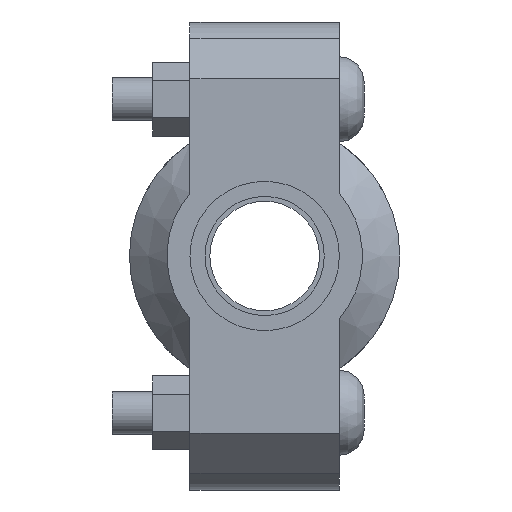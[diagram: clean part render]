
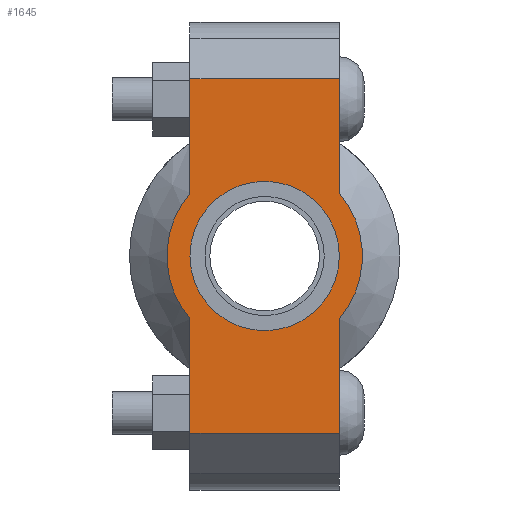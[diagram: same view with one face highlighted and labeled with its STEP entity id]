
A CAD part, left-side view. The second image highlights one B-rep face of the part: STEP entity #1645.
In plain terms, the highlighted planar face has unit normal (-1, 0, 0) as drawn and (0, 0, 1) by its records, which use the part's own axes.
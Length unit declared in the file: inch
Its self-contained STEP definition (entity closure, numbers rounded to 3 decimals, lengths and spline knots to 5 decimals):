
#200=LINE('',#2845,#297);
#215=LINE('',#2904,#312);
#223=LINE('',#2934,#320);
#225=LINE('',#2937,#322);
#226=LINE('',#2942,#323);
#227=LINE('',#2943,#324);
#297=VECTOR('',#2309,0.3937);
#312=VECTOR('',#2344,0.3937);
#320=VECTOR('',#2364,0.3937);
#322=VECTOR('',#2368,0.3937);
#323=VECTOR('',#2373,0.3937);
#324=VECTOR('',#2374,0.3937);
#388=FACE_BOUND('',#565,.T.);
#456=FACE_OUTER_BOUND('',#564,.T.);
#564=EDGE_LOOP('',(#1346,#1347,#1348,#1349,#1350,#1351,#1352,#1353));
#565=EDGE_LOOP('',(#1354));
#647=CIRCLE('',#1873,0.6575);
#671=CIRCLE('',#1925,0.86);
#672=CIRCLE('',#1926,0.86);
#743=VERTEX_POINT('',#2671);
#784=VERTEX_POINT('',#2842);
#785=VERTEX_POINT('',#2844);
#806=VERTEX_POINT('',#2899);
#807=VERTEX_POINT('',#2903);
#816=VERTEX_POINT('',#2929);
#817=VERTEX_POINT('',#2933);
#818=VERTEX_POINT('',#2939);
#819=VERTEX_POINT('',#2941);
#907=EDGE_CURVE('',#743,#743,#647,.T.);
#964=EDGE_CURVE('',#785,#784,#200,.T.);
#989=EDGE_CURVE('',#807,#806,#215,.T.);
#1002=EDGE_CURVE('',#817,#816,#223,.T.);
#1004=EDGE_CURVE('',#817,#784,#225,.T.);
#1005=EDGE_CURVE('',#816,#818,#671,.T.);
#1006=EDGE_CURVE('',#818,#819,#226,.T.);
#1007=EDGE_CURVE('',#807,#819,#227,.T.);
#1008=EDGE_CURVE('',#806,#785,#672,.T.);
#1346=ORIENTED_EDGE('',*,*,#1004,.F.);
#1347=ORIENTED_EDGE('',*,*,#1002,.T.);
#1348=ORIENTED_EDGE('',*,*,#1005,.T.);
#1349=ORIENTED_EDGE('',*,*,#1006,.T.);
#1350=ORIENTED_EDGE('',*,*,#1007,.F.);
#1351=ORIENTED_EDGE('',*,*,#989,.T.);
#1352=ORIENTED_EDGE('',*,*,#1008,.T.);
#1353=ORIENTED_EDGE('',*,*,#964,.T.);
#1354=ORIENTED_EDGE('',*,*,#907,.T.);
#1485=PLANE('',#1924);
#1645=ADVANCED_FACE('',(#456,#388),#1485,.T.);
#1873=AXIS2_PLACEMENT_3D('',#2673,#2199,#2200);
#1924=AXIS2_PLACEMENT_3D('',#2938,#2369,#2370);
#1925=AXIS2_PLACEMENT_3D('',#2940,#2371,#2372);
#1926=AXIS2_PLACEMENT_3D('',#2944,#2375,#2376);
#2199=DIRECTION('center_axis',(0.,0.,-1.));
#2200=DIRECTION('ref_axis',(-1.,0.,0.));
#2309=DIRECTION('',(-1.,0.,0.));
#2344=DIRECTION('',(-1.,0.,0.));
#2364=DIRECTION('',(1.,0.,0.));
#2368=DIRECTION('',(0.,1.,0.));
#2369=DIRECTION('center_axis',(0.,0.,1.));
#2370=DIRECTION('ref_axis',(1.,0.,0.));
#2371=DIRECTION('center_axis',(0.,0.,1.));
#2372=DIRECTION('ref_axis',(-1.,0.,0.));
#2373=DIRECTION('',(1.,0.,0.));
#2374=DIRECTION('',(0.,-1.,0.));
#2375=DIRECTION('center_axis',(0.,0.,1.));
#2376=DIRECTION('ref_axis',(-1.,0.,0.));
#2671=CARTESIAN_POINT('',(0.6575,0.,0.875));
#2673=CARTESIAN_POINT('Origin',(0.,0.,0.875));
#2842=CARTESIAN_POINT('',(-1.56,0.6575,0.875));
#2844=CARTESIAN_POINT('',(-0.55434,0.6575,0.875));
#2845=CARTESIAN_POINT('',(2.06,0.6575,0.875));
#2899=CARTESIAN_POINT('',(0.55434,0.6575,0.875));
#2903=CARTESIAN_POINT('',(1.56,0.6575,0.875));
#2904=CARTESIAN_POINT('',(2.06,0.6575,0.875));
#2929=CARTESIAN_POINT('',(-0.55434,-0.6575,0.875));
#2933=CARTESIAN_POINT('',(-1.56,-0.6575,0.875));
#2934=CARTESIAN_POINT('',(-2.06,-0.6575,0.875));
#2937=CARTESIAN_POINT('',(-1.56,0.32875,0.875));
#2938=CARTESIAN_POINT('Origin',(0.,0.,
0.875));
#2939=CARTESIAN_POINT('',(0.55434,-0.6575,0.875));
#2940=CARTESIAN_POINT('Origin',(0.,0.,0.875));
#2941=CARTESIAN_POINT('',(1.56,-0.6575,0.875));
#2942=CARTESIAN_POINT('',(-2.06,-0.6575,0.875));
#2943=CARTESIAN_POINT('',(1.56,-0.32875,0.875));
#2944=CARTESIAN_POINT('Origin',(0.,0.,0.875));
